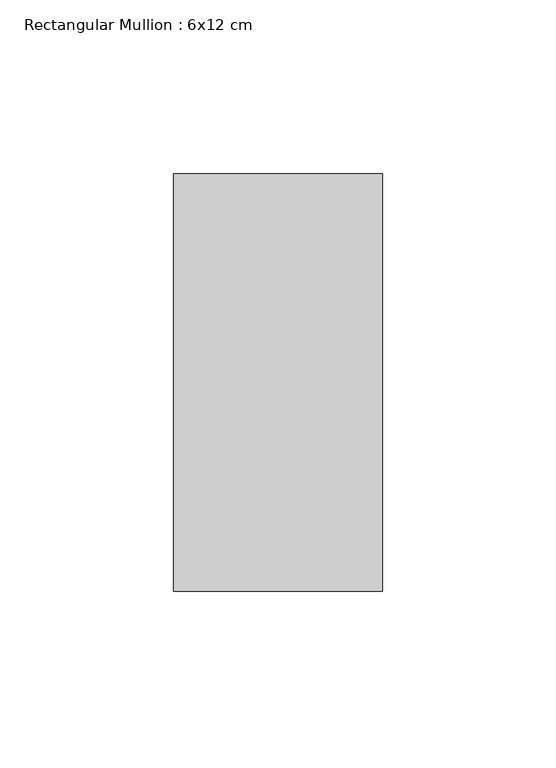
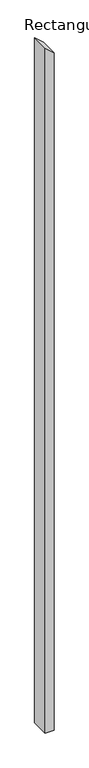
"""IFC4 building model written with IfcOpenShell, lengths in millimetres: member geometry, Rectangular Mullion : 6x12 cm."""

from ifc_helpers import new_model, si_unit, frame, origin, place, context, project, spatial, polyline, outline, extrude, source, transform, mapped, element, save


def rectangular_mullion_6x12_cm_fa8b9bda(model_context):
    return source(origin(), model_context, "Body", "SweptSolid", [
        extrude(outline(polyline([(-105.3653049, 30.0), (-53.3933853, -30.0), (-4880.8180887, -30.0), (-4880.8180887, 30.0), (-105.3653049, 30.0)])), frame((0.0, 85.0, 0.0), z_axis=(0.0, 1.0, 0.0), x_axis=(0.0, 0.0, 1.0)), (0.0, 0.0, 1.0), 120.0),
    ])


if __name__ == "__main__":
    model = new_model("IFC4")
    model_context = context("Model", 3, world=origin())
    ifc_project = project(units=[si_unit("LENGTHUNIT", "METRE", prefix="MILLI")], contexts=[model_context])
    site = spatial("IfcSite", under=ifc_project)
    building = spatial("IfcBuilding", under=site)
    placement = place(None, origin())
    rectangular_mullion_6x12_cm_shape = rectangular_mullion_6x12_cm_fa8b9bda(model_context)
    element("IfcMember", 1, ObjectType="Rectangular Mullion : 6x12 cm", at=placement, inside=building, context=model_context, shape_type="MappedRepresentation", body=[
        mapped(rectangular_mullion_6x12_cm_shape, transform((0.0, 0.0, 0.0), x_axis=(1.0, 0.0, 0.0), y_axis=(0.0, 1.0, 0.0), z_axis=(0.0, 0.0, 1.0))),
    ])
    save(model, "model.ifc")
